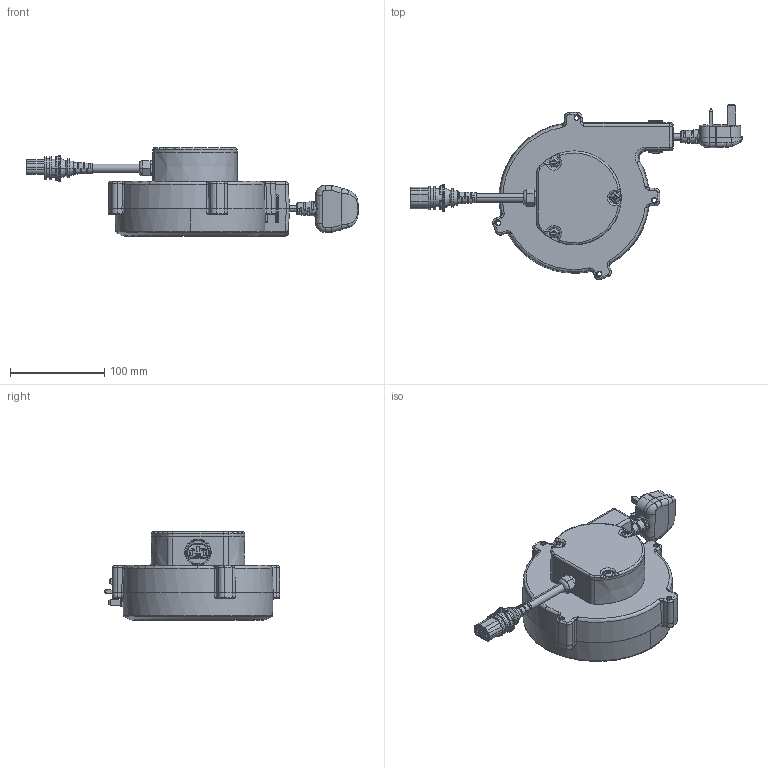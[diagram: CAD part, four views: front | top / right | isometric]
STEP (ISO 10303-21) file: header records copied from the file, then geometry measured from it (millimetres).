
FILE_DESCRIPTION (( 'STEP AP203' ), '1' );
FILE_NAME ('產品三維模型圖-TCR-A.STEP', '2016-11-01T03:40:41', ( 'Phil Lee' ), ( 'Toshiba' ), 'SwSTEP 2.0', 'SolidWorks 2015', '' );
FILE_SCHEMA (( 'CONFIG_CONTROL_DESIGN' ));
Length unit declared in the file: millimetre
Products named in the file (1): 產品三維模型圖-TCR-A
Bounding box: 352.78 x 186.42 x 94.4 mm (x, y, z)
Volume: 1607107.2 mm3; surface area: 172588.1 mm2
Topology: 5 solids, 5 shells, 1278 faces, 3298 edges, 2086 vertices
Faces by surface type: plane 549, cylinder 327, bspline 216, torus 141, cone 41, sphere 4
Entity records: 53345 total; most frequent: CARTESIAN_POINT 23618, ORIENTED_EDGE 6564, DIRECTION 5682, EDGE_CURVE 3282, VERTEX_POINT 2084, AXIS2_PLACEMENT_3D 2059, VECTOR 1564, LINE 1564
